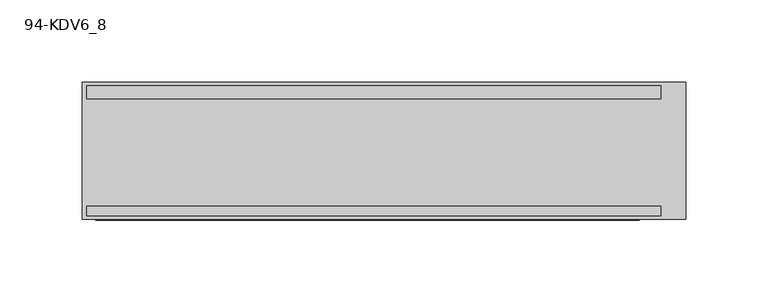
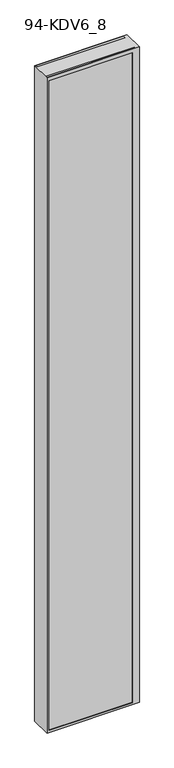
"""IFC4 building model written with IfcOpenShell, lengths in millimetres: plate geometry, PNX_VITRE_DV : 94-KDV6_8."""

from ifc_helpers import new_model, si_unit, frame, origin, origin_with_axes, place, context, project, spatial, polyline, outline, extrude, source, transform, mapped, element, save


def plate_94_kdv6_8_428a1812(model_context):
    return source(origin(), model_context, "Body", "SweptSolid", [
        extrude(outline(polyline([(167.9, -39.5), (-180.4, -39.5), (-180.4, -33.5), (167.9, -33.5), (167.9, -39.5)])), origin_with_axes(), (0.0, 0.0, 1.0), 2739.0),
        extrude(outline(polyline([(167.9, 31.5), (-180.4, 31.5), (-180.4, 39.5), (167.9, 39.5), (167.9, 31.5)])), origin_with_axes(), (0.0, 0.0, 1.0), 2739.0),
        extrude(outline(polyline([(2739.0, 182.9), (2739.0, -182.9), (0.0, -182.9), (0.0, 182.9), (2739.0, 182.9)]), holes=[polyline([(2724.0, -174.9), (2724.0, 154.9), (9.0, 154.9), (9.0, -174.9), (2724.0, -174.9)])]), frame((0.0, -41.5, 0.0), z_axis=(0.0, 1.0, 0.0), x_axis=(0.0, 0.0, 1.0)), (0.0, 0.0, 1.0), 83.0),
    ])


if __name__ == "__main__":
    model = new_model("IFC4")
    model_context = context("Model", 3, world=origin())
    ifc_project = project(units=[si_unit("LENGTHUNIT", "METRE", prefix="MILLI")], contexts=[model_context])
    site = spatial("IfcSite", under=ifc_project)
    building = spatial("IfcBuilding", under=site)
    placement = place(None, origin())
    plate_94_kdv6_8_shape = plate_94_kdv6_8_428a1812(model_context)
    element("IfcPlate", 1, ObjectType="PNX_VITRE_DV : 94-KDV6_8", at=placement, inside=building, context=model_context, shape_type="MappedRepresentation", body=[
        mapped(plate_94_kdv6_8_shape, transform((0.0, 0.0, 0.0), x_axis=(1.0, 0.0, 0.0), y_axis=(0.0, 1.0, 0.0), z_axis=(0.0, 0.0, 1.0))),
    ])
    save(model, "model.ifc")
